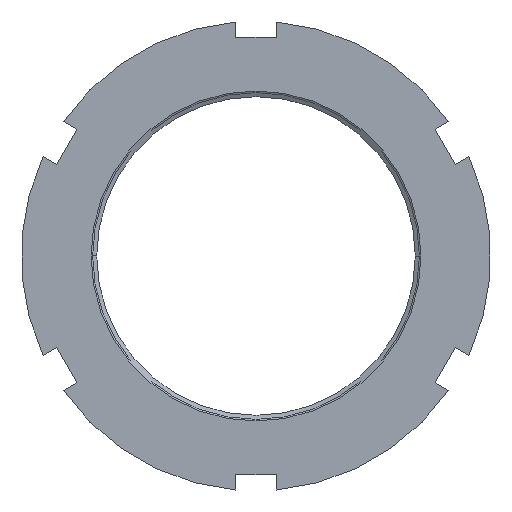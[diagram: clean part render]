
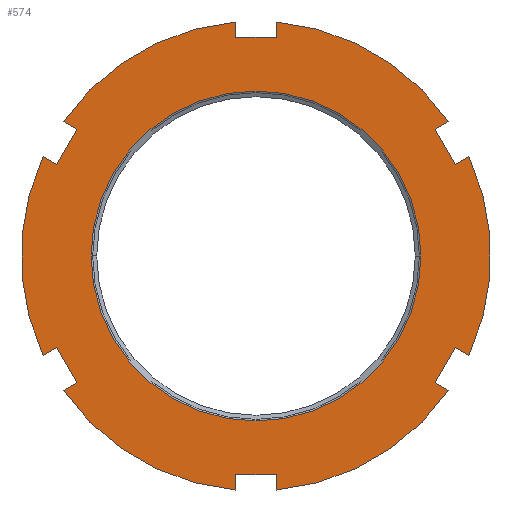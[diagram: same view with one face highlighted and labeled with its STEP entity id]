
A CAD part, front view. The second image highlights one B-rep face of the part: STEP entity #574.
In plain terms, the highlighted planar face has unit normal (0, -1, 0).
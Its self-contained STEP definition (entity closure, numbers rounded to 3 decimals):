
#1=DIRECTION('',(0.866,0.,-0.5));
#2=VECTOR('',#1,3.782);
#3=CARTESIAN_POINT('',(-52.108,0.,24.311));
#4=LINE('',#3,#2);
#5=DIRECTION('',(0.5,0.,0.866));
#6=VECTOR('',#5,10.);
#7=CARTESIAN_POINT('',(-48.832,0.,22.42));
#8=LINE('',#7,#6);
#9=DIRECTION('',(-0.866,0.,0.5));
#10=VECTOR('',#9,3.782);
#11=CARTESIAN_POINT('',(-43.832,0.,31.08));
#12=LINE('',#11,#10);
#13=DIRECTION('',(0.,0.,-1.));
#14=VECTOR('',#13,3.782);
#15=CARTESIAN_POINT('',(-5.,0.,57.282));
#16=LINE('',#15,#14);
#17=DIRECTION('',(1.,0.,0.));
#18=VECTOR('',#17,10.);
#19=CARTESIAN_POINT('',(-5.,0.,53.5));
#20=LINE('',#19,#18);
#21=DIRECTION('',(0.,0.,1.));
#22=VECTOR('',#21,3.782);
#23=CARTESIAN_POINT('',(5.,0.,53.5));
#24=LINE('',#23,#22);
#25=DIRECTION('',(-0.866,0.,-0.5));
#26=VECTOR('',#25,3.782);
#27=CARTESIAN_POINT('',(47.108,0.,32.971));
#28=LINE('',#27,#26);
#29=DIRECTION('',(0.5,0.,-0.866));
#30=VECTOR('',#29,10.);
#31=CARTESIAN_POINT('',(43.832,0.,31.08));
#32=LINE('',#31,#30);
#33=DIRECTION('',(0.866,0.,0.5));
#34=VECTOR('',#33,3.782);
#35=CARTESIAN_POINT('',(48.832,0.,22.42));
#36=LINE('',#35,#34);
#37=DIRECTION('',(-0.866,0.,0.5));
#38=VECTOR('',#37,3.782);
#39=CARTESIAN_POINT('',(52.108,0.,-24.311));
#40=LINE('',#39,#38);
#41=DIRECTION('',(-0.5,0.,-0.866));
#42=VECTOR('',#41,10.);
#43=CARTESIAN_POINT('',(48.832,0.,-22.42));
#44=LINE('',#43,#42);
#45=DIRECTION('',(0.866,0.,-0.5));
#46=VECTOR('',#45,3.782);
#47=CARTESIAN_POINT('',(43.832,0.,-31.08));
#48=LINE('',#47,#46);
#49=DIRECTION('',(0.,0.,1.));
#50=VECTOR('',#49,3.782);
#51=CARTESIAN_POINT('',(5.,0.,-57.282));
#52=LINE('',#51,#50);
#53=DIRECTION('',(-1.,0.,0.));
#54=VECTOR('',#53,10.);
#55=CARTESIAN_POINT('',(5.,0.,-53.5));
#56=LINE('',#55,#54);
#57=DIRECTION('',(0.,0.,-1.));
#58=VECTOR('',#57,3.782);
#59=CARTESIAN_POINT('',(-5.,0.,-53.5));
#60=LINE('',#59,#58);
#61=DIRECTION('',(0.866,0.,0.5));
#62=VECTOR('',#61,3.782);
#63=CARTESIAN_POINT('',(-47.108,0.,-32.971));
#64=LINE('',#63,#62);
#65=DIRECTION('',(-0.5,0.,0.866));
#66=VECTOR('',#65,10.);
#67=CARTESIAN_POINT('',(-43.832,0.,-31.08));
#68=LINE('',#67,#66);
#69=DIRECTION('',(-0.866,0.,-0.5));
#70=VECTOR('',#69,3.782);
#71=CARTESIAN_POINT('',(-48.832,0.,-22.42));
#72=LINE('',#71,#70);
#73=CARTESIAN_POINT('',(0.,0.,0.));
#74=DIRECTION('',(0.,1.,0.));
#75=DIRECTION('',(1.,0.,0.));
#76=AXIS2_PLACEMENT_3D('',#73,#74,#75);
#78=CARTESIAN_POINT('',(0.,0.,0.));
#79=DIRECTION('',(0.,1.,0.));
#80=DIRECTION('',(-1.,0.,0.));
#81=AXIS2_PLACEMENT_3D('',#78,#79,#80);
#87=CARTESIAN_POINT('',(0.,0.,0.));
#88=DIRECTION('',(0.,-1.,0.));
#89=DIRECTION('',(0.819,0.,0.573));
#90=AXIS2_PLACEMENT_3D('',#87,#88,#89);
#105=CARTESIAN_POINT('',(0.,0.,0.));
#106=DIRECTION('',(0.,-1.,0.));
#107=DIRECTION('',(0.906,0.,-0.423));
#108=AXIS2_PLACEMENT_3D('',#105,#106,#107);
#123=CARTESIAN_POINT('',(0.,0.,0.));
#124=DIRECTION('',(0.,-1.,0.));
#125=DIRECTION('',(0.087,0.,-0.996));
#126=AXIS2_PLACEMENT_3D('',#123,#124,#125);
#141=CARTESIAN_POINT('',(0.,0.,0.));
#142=DIRECTION('',(0.,-1.,0.));
#143=DIRECTION('',(-0.819,0.,-0.573));
#144=AXIS2_PLACEMENT_3D('',#141,#142,#143);
#159=CARTESIAN_POINT('',(0.,0.,0.));
#160=DIRECTION('',(0.,-1.,0.));
#161=DIRECTION('',(-0.906,0.,0.423));
#162=AXIS2_PLACEMENT_3D('',#159,#160,#161);
#186=CARTESIAN_POINT('',(0.,0.,0.));
#187=DIRECTION('',(0.,-1.,0.));
#188=DIRECTION('',(-0.087,0.,0.996));
#189=AXIS2_PLACEMENT_3D('',#186,#187,#188);
#401=CARTESIAN_POINT('',(-5.,0.,57.282));
#402=CARTESIAN_POINT('',(-5.,0.,53.5));
#403=VERTEX_POINT('',#401);
#404=VERTEX_POINT('',#402);
#405=CARTESIAN_POINT('',(5.,0.,53.5));
#406=VERTEX_POINT('',#405);
#407=CARTESIAN_POINT('',(5.,0.,57.282));
#408=VERTEX_POINT('',#407);
#417=CARTESIAN_POINT('',(47.108,0.,32.971));
#418=CARTESIAN_POINT('',(43.832,0.,31.08));
#419=VERTEX_POINT('',#417);
#420=VERTEX_POINT('',#418);
#421=CARTESIAN_POINT('',(48.832,0.,22.42));
#422=VERTEX_POINT('',#421);
#423=CARTESIAN_POINT('',(52.108,0.,24.311));
#424=VERTEX_POINT('',#423);
#433=CARTESIAN_POINT('',(52.108,0.,-24.311));
#434=CARTESIAN_POINT('',(48.832,0.,-22.42));
#435=VERTEX_POINT('',#433);
#436=VERTEX_POINT('',#434);
#437=CARTESIAN_POINT('',(43.832,0.,-31.08));
#438=VERTEX_POINT('',#437);
#439=CARTESIAN_POINT('',(47.108,0.,-32.971));
#440=VERTEX_POINT('',#439);
#449=CARTESIAN_POINT('',(5.,0.,-57.282));
#450=CARTESIAN_POINT('',(5.,0.,-53.5));
#451=VERTEX_POINT('',#449);
#452=VERTEX_POINT('',#450);
#453=CARTESIAN_POINT('',(-5.,0.,-53.5));
#454=VERTEX_POINT('',#453);
#455=CARTESIAN_POINT('',(-5.,0.,-57.282));
#456=VERTEX_POINT('',#455);
#477=CARTESIAN_POINT('',(40.386,0.,0.));
#478=CARTESIAN_POINT('',(-40.386,0.,
0.));
#479=VERTEX_POINT('',#477);
#480=VERTEX_POINT('',#478);
#481=CARTESIAN_POINT('',(-47.108,0.,-32.971));
#482=CARTESIAN_POINT('',(-43.832,0.,-31.08));
#483=VERTEX_POINT('',#481);
#484=VERTEX_POINT('',#482);
#485=CARTESIAN_POINT('',(-48.832,0.,-22.42));
#486=VERTEX_POINT('',#485);
#487=CARTESIAN_POINT('',(-52.108,0.,-24.311));
#488=VERTEX_POINT('',#487);
#497=CARTESIAN_POINT('',(-52.108,0.,24.311));
#498=CARTESIAN_POINT('',(-48.832,0.,22.42));
#499=VERTEX_POINT('',#497);
#500=VERTEX_POINT('',#498);
#501=CARTESIAN_POINT('',(-43.832,0.,31.08));
#502=VERTEX_POINT('',#501);
#503=CARTESIAN_POINT('',(-47.108,0.,32.971));
#504=VERTEX_POINT('',#503);
#513=CARTESIAN_POINT('',(0.,0.,0.));
#514=DIRECTION('',(0.,1.,0.));
#515=DIRECTION('',(1.,0.,0.));
#516=AXIS2_PLACEMENT_3D('',#513,#514,#515);
#517=PLANE('',#516);
#519=ORIENTED_EDGE('',*,*,#518,.T.);
#521=ORIENTED_EDGE('',*,*,#520,.T.);
#523=ORIENTED_EDGE('',*,*,#522,.T.);
#525=ORIENTED_EDGE('',*,*,#524,.F.);
#527=ORIENTED_EDGE('',*,*,#526,.T.);
#529=ORIENTED_EDGE('',*,*,#528,.T.);
#531=ORIENTED_EDGE('',*,*,#530,.T.);
#533=ORIENTED_EDGE('',*,*,#532,.F.);
#535=ORIENTED_EDGE('',*,*,#534,.T.);
#537=ORIENTED_EDGE('',*,*,#536,.T.);
#539=ORIENTED_EDGE('',*,*,#538,.T.);
#541=ORIENTED_EDGE('',*,*,#540,.F.);
#543=ORIENTED_EDGE('',*,*,#542,.T.);
#545=ORIENTED_EDGE('',*,*,#544,.T.);
#547=ORIENTED_EDGE('',*,*,#546,.T.);
#549=ORIENTED_EDGE('',*,*,#548,.F.);
#551=ORIENTED_EDGE('',*,*,#550,.T.);
#553=ORIENTED_EDGE('',*,*,#552,.T.);
#555=ORIENTED_EDGE('',*,*,#554,.T.);
#557=ORIENTED_EDGE('',*,*,#556,.F.);
#559=ORIENTED_EDGE('',*,*,#558,.T.);
#561=ORIENTED_EDGE('',*,*,#560,.T.);
#563=ORIENTED_EDGE('',*,*,#562,.T.);
#565=ORIENTED_EDGE('',*,*,#564,.F.);
#566=EDGE_LOOP('',(#519,#521,#523,#525,#527,#529,#531,#533,#535,#537,#539,#541,
#543,#545,#547,#549,#551,#553,#555,#557,#559,#561,#563,#565));
#567=FACE_OUTER_BOUND('',#566,.F.);
#569=ORIENTED_EDGE('',*,*,#568,.F.);
#571=ORIENTED_EDGE('',*,*,#570,.F.);
#572=EDGE_LOOP('',(#569,#571));
#573=FACE_BOUND('',#572,.F.);
#574=ADVANCED_FACE('',(#567,#573),#517,.F.);
#77=CIRCLE('',#76,40.386);
#82=CIRCLE('',#81,40.386);
#91=CIRCLE('',#90,57.5);
#109=CIRCLE('',#108,57.5);
#127=CIRCLE('',#126,57.5);
#145=CIRCLE('',#144,57.5);
#163=CIRCLE('',#162,57.5);
#190=CIRCLE('',#189,57.5);
#518=EDGE_CURVE('',#499,#500,#4,.T.);
#520=EDGE_CURVE('',#500,#502,#8,.T.);
#522=EDGE_CURVE('',#502,#504,#12,.T.);
#524=EDGE_CURVE('',#403,#504,#190,.T.);
#526=EDGE_CURVE('',#403,#404,#16,.T.);
#528=EDGE_CURVE('',#404,#406,#20,.T.);
#530=EDGE_CURVE('',#406,#408,#24,.T.);
#532=EDGE_CURVE('',#419,#408,#91,.T.);
#534=EDGE_CURVE('',#419,#420,#28,.T.);
#536=EDGE_CURVE('',#420,#422,#32,.T.);
#538=EDGE_CURVE('',#422,#424,#36,.T.);
#540=EDGE_CURVE('',#435,#424,#109,.T.);
#542=EDGE_CURVE('',#435,#436,#40,.T.);
#544=EDGE_CURVE('',#436,#438,#44,.T.);
#546=EDGE_CURVE('',#438,#440,#48,.T.);
#548=EDGE_CURVE('',#451,#440,#127,.T.);
#550=EDGE_CURVE('',#451,#452,#52,.T.);
#552=EDGE_CURVE('',#452,#454,#56,.T.);
#554=EDGE_CURVE('',#454,#456,#60,.T.);
#556=EDGE_CURVE('',#483,#456,#145,.T.);
#558=EDGE_CURVE('',#483,#484,#64,.T.);
#560=EDGE_CURVE('',#484,#486,#68,.T.);
#562=EDGE_CURVE('',#486,#488,#72,.T.);
#564=EDGE_CURVE('',#499,#488,#163,.T.);
#568=EDGE_CURVE('',#479,#480,#77,.T.);
#570=EDGE_CURVE('',#480,#479,#82,.T.);
